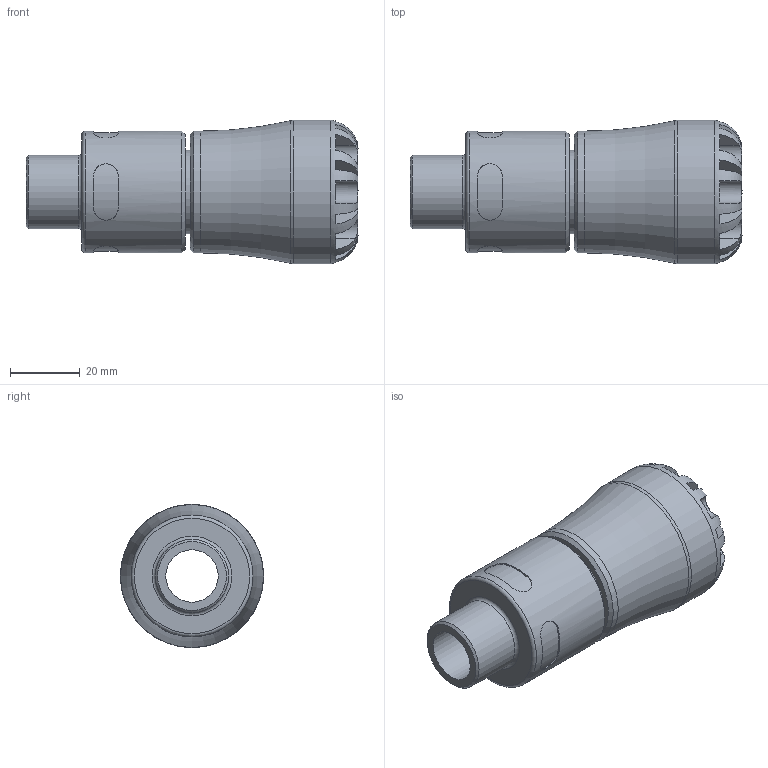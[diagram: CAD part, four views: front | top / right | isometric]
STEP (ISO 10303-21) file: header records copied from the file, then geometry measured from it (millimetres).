
FILE_DESCRIPTION(/* description */ ('PLASSON MALE ADAPTOR 20X1/2" SERIES 1'),/* implementation_level */ '2;1');
FILE_NAME(/* name */ 'C:\Dropbox\KIMPROJECTS-Inventor 2019\99-16-3568-Processing\S1\10N20\stp\10N200020005_10N2G0020005.stp',/* time_stamp */ '2024-03-12T13:18:56+01:00',/* author */ ('KIM'),/* organization */ (''),/* preprocessor_version */ 'ST-DEVELOPER v17.2',/* originating_system */ 'Autodesk Inventor 2019',/* authorisation */ '');
FILE_SCHEMA (('AUTOMOTIVE_DESIGN { 1 0 10303 214 3 1 1 }'));
Length unit declared in the file: millimetre
Products named in the file (1): 10N200020005_10N2G0020005
Bounding box: 95 x 41 x 41 mm (x, y, z)
Volume: 63080.1 mm3; surface area: 18857.2 mm2
Topology: 1 solids, 1 shells, 106 faces, 279 edges, 182 vertices
Faces by surface type: plane 62, cylinder 35, torus 5, cone 4
Full cylindrical faces by diameter (mm): 15 x1, 20 x1, 20.955 x1, 24 x1, 34.85 x2, 41 x1
Entity records: 4218 total; most frequent: CARTESIAN_POINT 1484, ORIENTED_EDGE 558, DIRECTION 552, EDGE_CURVE 279, AXIS2_PLACEMENT_3D 230, VERTEX_POINT 182, CIRCLE 123, EDGE_LOOP 115
